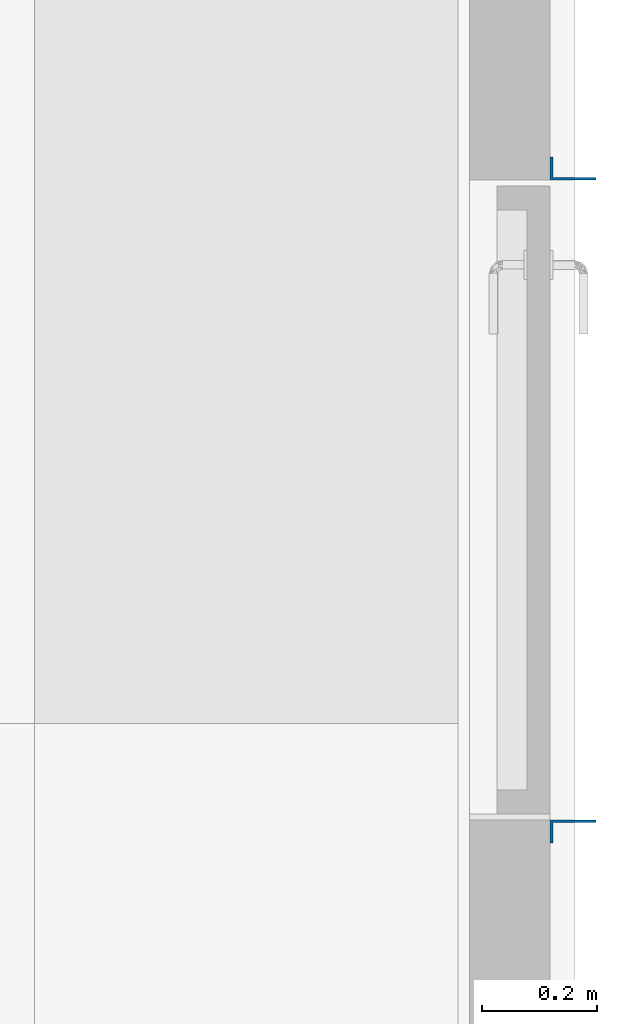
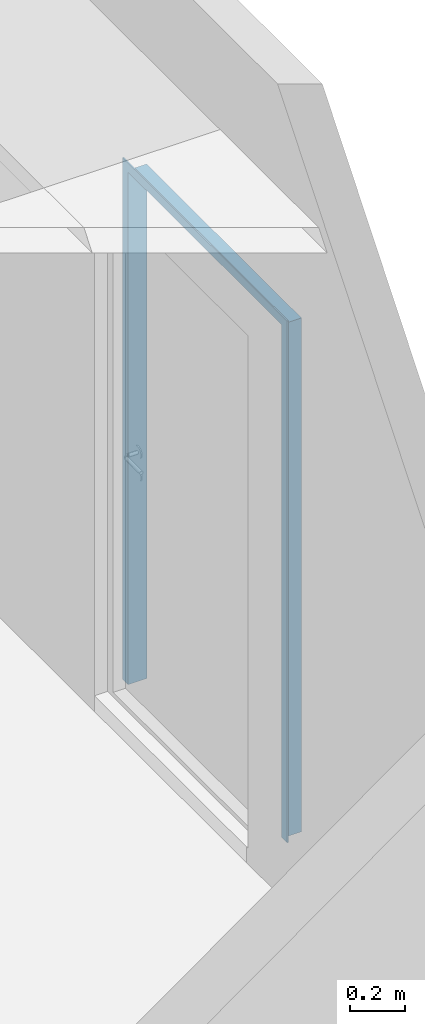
# One storey, part 10 of 12: 1 wall.
"""IFC2X3 building model written with IfcOpenShell, lengths in millimetres."""

from ifc_helpers import new_model, entity, si_unit, converted_unit, derived_unit, direction, frame, origin_with_axes, place, context, subcontext, project, spatial, faceted_brep, material, type_object, element, save


model = new_model("IFC2X3")

# Units and contexts
model_context = context("Model", 3, precision=0.01, world=frame((0.0, 4.29681676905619e-09, 0.0)), true_north=direction((6.12323399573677e-17, 1.0)))
plan_context = context("Plan", 3, precision=0.01, world=frame((0.0, 4.29681676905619e-09, 0.0)), true_north=direction((6.12323399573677e-17, 1.0)))
body_context = subcontext(model_context, "Body", "Model", "MODEL_VIEW")
ifc_project = project(units=[converted_unit("PLANEANGLEUNIT", "DEGREE", entity("IfcPositiveLengthMeasure", 0.0174532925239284), si_unit("PLANEANGLEUNIT", "RADIAN"), dimensions=[0, 0, 0, 0, 0, 0, 0]), si_unit("AREAUNIT", "SQUARE_METRE"), si_unit("LENGTHUNIT", "METRE", prefix="MILLI"), si_unit("MASSUNIT", "GRAM", prefix="KILO"), si_unit("POWERUNIT", "WATT"), si_unit("PRESSUREUNIT", "PASCAL", prefix="KILO"), si_unit("FORCEUNIT", "NEWTON", prefix="KILO"), si_unit("ELECTRICVOLTAGEUNIT", "VOLT"), si_unit("ELECTRICCURRENTUNIT", "AMPERE"), si_unit("THERMODYNAMICTEMPERATUREUNIT", "DEGREE_CELSIUS"), si_unit("TIMEUNIT", "SECOND"), si_unit("VOLUMEUNIT", "CUBIC_METRE"), derived_unit("LINEARVELOCITYUNIT", [(si_unit("LENGTHUNIT", "METRE"), 1), (si_unit("TIMEUNIT", "SECOND"), -1)]), derived_unit("VOLUMETRICFLOWRATEUNIT", [(si_unit("VOLUMEUNIT", "CUBIC_METRE"), 1), (si_unit("TIMEUNIT", "SECOND"), -1)]), derived_unit("THERMALTRANSMITTANCEUNIT", [(si_unit("POWERUNIT", "WATT"), 1), (si_unit("THERMODYNAMICTEMPERATUREUNIT", "KELVIN"), -1), (si_unit("AREAUNIT", "SQUARE_METRE"), -1)]), derived_unit("SOUNDPRESSUREUNIT", [(si_unit("PRESSUREUNIT", "PASCAL"), 1)])], contexts=[model_context, plan_context])

# Site, building, storey
site_placement = place(None, origin_with_axes())
site = spatial("IfcSite", under=ifc_project, at=site_placement, Name="ENGM", CompositionType="ELEMENT")
building_placement = place(site_placement, origin_with_axes())
building = spatial("IfcBuilding", under=site, at=building_placement, Name="TH", CompositionType="ELEMENT")
storey_placement = place(building_placement, frame((0.0, 0.0, 210200.0), z_axis=(0.0, 0.0, 1.0), x_axis=(1.0, 0.0, 0.0)))
storey = spatial("IfcBuildingStorey", under=building, at=storey_placement, Name="Nivå F - 0,7 m", CompositionType="ELEMENT", Elevation=210200.0)

# Wall
ifc_material = material(Name="Metal - Stainless Steel")
wall_type = type_object("IfcWallType", Name="A270 - KL-S04:A270 - Åpning stål ramme for dører L-profil", PredefinedType="NOTDEFINED", material=ifc_material)
wall_placement = place(storey_placement, frame((1130494.79984185, 463438.995325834, 0.0), z_axis=(0.0, 0.0, 1.0), x_axis=(0.0, 1.0, 0.0)))
element("IfcWall", 1, at=wall_placement, inside=storey, type_object=wall_type, material=ifc_material, Name="A270 - KL-S04:A270 - Åpning stål ramme for dører L-profil", ObjectType="A270 - KL-S04:A270 - Åpning stål ramme for dører L-profil", context=body_context, shape_type="Brep", body=[
    faceted_brep([(1805.99999999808, -80.0, 0.0), (1805.99999999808, 0.0, 0.0), (1845.99999999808, 0.0, 0.0), (1845.99999999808, -5.0, 0.0), (1810.99999999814, -5.0, 0.0), (1810.99999999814, -80.0, 0.0), (1805.99999999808, -80.0, 2260.0), (1805.99999999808, 0.0, 2260.0), (695.999999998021, 0.0, 2260.0), (695.999999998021, 0.0, 0.0), (655.999999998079, 0.0, 0.0), (655.999999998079, 0.0, 2300.0), (1845.99999999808, 0.0, 2300.0), (1810.99999999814, -5.0, 2265.0), (1810.99999999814, -80.0, 2265.0), (690.999999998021, -80.0, 2265.0), (690.999999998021, -80.0, 0.0), (695.999999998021, -80.0, 0.0), (695.999999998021, -80.0, 2260.0), (690.999999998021, -5.0, 2265.0), (690.999999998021, -5.0, 0.0), (655.999999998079, -5.0, 0.0), (1845.99999999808, -5.0, 2300.0), (655.999999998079, -5.0, 2300.0)], [[[0, 1, 2, 3, 4, 5]], [[1, 0, 6, 7]], [[2, 1, 7, 8, 9, 10, 11, 12]], [[5, 4, 13, 14]], [[0, 5, 14, 15, 16, 17, 18, 6]], [[7, 6, 18, 8]], [[14, 13, 19, 15]], [[17, 16, 20, 21, 10, 9]], [[8, 18, 17, 9]], [[15, 19, 20, 16]], [[3, 2, 12, 22]], [[4, 3, 22, 23, 21, 20, 19, 13]], [[22, 12, 11, 23]], [[23, 11, 10, 21]]]),
])

save(model, "model.ifc")
